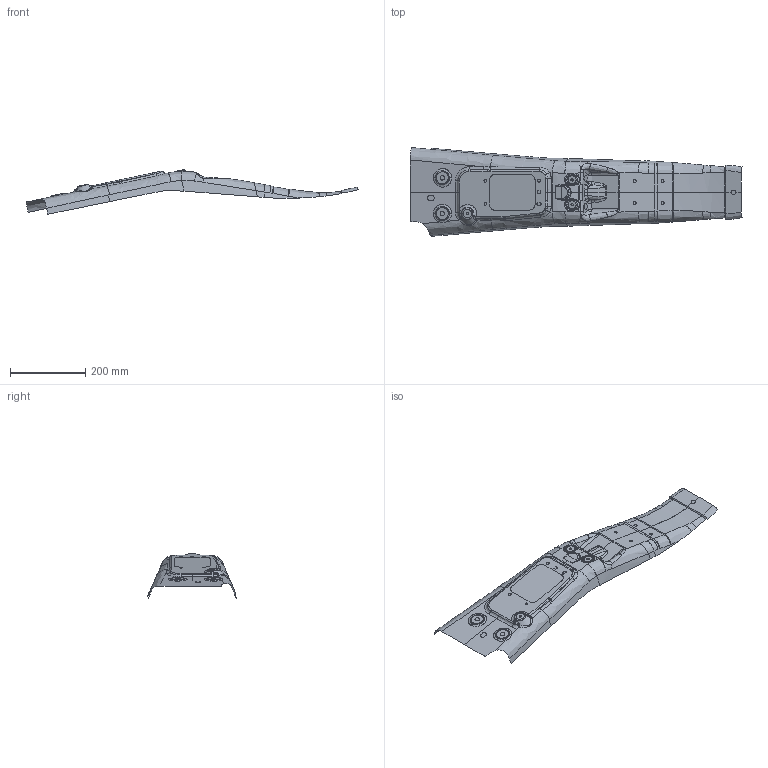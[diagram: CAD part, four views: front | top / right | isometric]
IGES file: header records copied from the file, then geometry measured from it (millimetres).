
Start section: 21HTranslator GiD - IGES
Global section: file name: C:/gid project/tutoriales/Importing_Tutorial/base_tmp.igs; native system: GiD; preprocessor: 9.2.9b; organization: CIMNE - International Center for Numerical Methods in Engineering; date: 100319.132822; units: millimetre
Bounding box: 880.39 x 235.12 x 117.98 mm (x, y, z)
Surface area: 203962.3 mm2 (no closed solid volume)
Topology: 0 solids, 0 shells, 265 faces, 2919 edges, 2914 vertices
Faces by surface type: bspline 265
